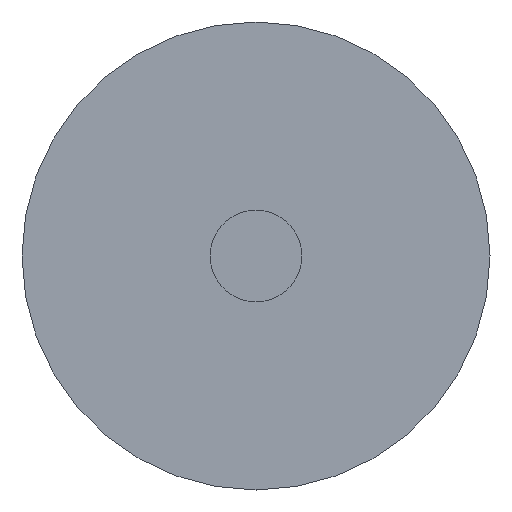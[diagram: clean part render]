
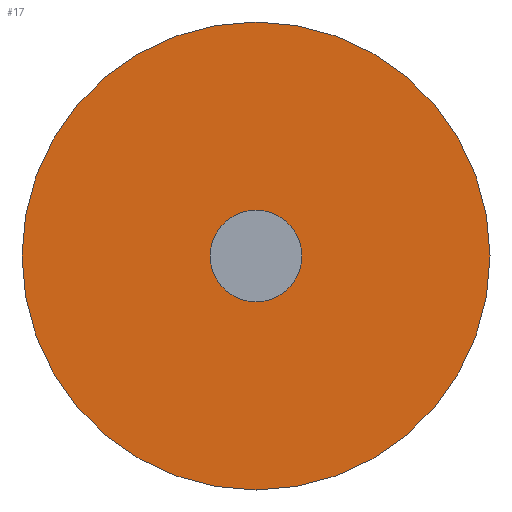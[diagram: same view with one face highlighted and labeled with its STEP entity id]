
A CAD part, front view. The second image highlights one B-rep face of the part: STEP entity #17.
In plain terms, the highlighted planar face has unit normal (0, -1, 0).
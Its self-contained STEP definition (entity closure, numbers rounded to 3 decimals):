
#11 = CARTESIAN_POINT ( 'NONE',  ( 0., -6.5, 0. ) ) ;
#17 = ADVANCED_FACE ( 'NONE', ( #417, #468 ), #525, .F. ) ;
#30 = DIRECTION ( 'NONE',  ( -1., 0., 0. ) ) ;
#90 = CIRCLE ( 'NONE', #470, 1.75 ) ;
#91 = ORIENTED_EDGE ( 'NONE', *, *, #504, .T. ) ;
#93 = DIRECTION ( 'NONE',  ( -1., 0., 0. ) ) ;
#97 = CARTESIAN_POINT ( 'NONE',  ( 12.75, -6.5, 0. ) ) ;
#106 = EDGE_LOOP ( 'NONE', ( #91, #310 ) ) ;
#113 = ORIENTED_EDGE ( 'NONE', *, *, #516, .F. ) ;
#115 = DIRECTION ( 'NONE',  ( -1., 0., 0. ) ) ;
#153 = VERTEX_POINT ( 'NONE', #260 ) ;
#185 = CIRCLE ( 'NONE', #245, 12.75 ) ;
#197 = DIRECTION ( 'NONE',  ( 0., 1., 0. ) ) ;
#221 = DIRECTION ( 'NONE',  ( 0., 1., 0. ) ) ;
#223 = VERTEX_POINT ( 'NONE', #97 ) ;
#245 = AXIS2_PLACEMENT_3D ( 'NONE', #373, #513, #30 ) ;
#260 = CARTESIAN_POINT ( 'NONE',  ( 1.75, -6.5, 0. ) ) ;
#261 = CARTESIAN_POINT ( 'NONE',  ( 0., -6.5, 0. ) ) ;
#267 = CIRCLE ( 'NONE', #311, 12.75 ) ;
#298 = AXIS2_PLACEMENT_3D ( 'NONE', #261, #313, #93 ) ;
#308 = DIRECTION ( 'NONE',  ( -1., 0., 0. ) ) ;
#310 = ORIENTED_EDGE ( 'NONE', *, *, #387, .T. ) ;
#311 = AXIS2_PLACEMENT_3D ( 'NONE', #11, #221, #308 ) ;
#312 = CARTESIAN_POINT ( 'NONE',  ( -1.75, -6.5, 0. ) ) ;
#313 = DIRECTION ( 'NONE',  ( 0., 1., 0. ) ) ;
#322 = CARTESIAN_POINT ( 'NONE',  ( -12.75, -6.5, 0. ) ) ;
#346 = EDGE_CURVE ( 'NONE', #487, #223, #267, .T. ) ;
#370 = VERTEX_POINT ( 'NONE', #312 ) ;
#373 = CARTESIAN_POINT ( 'NONE',  ( 0., -6.5, 0. ) ) ;
#387 = EDGE_CURVE ( 'NONE', #153, #370, #528, .T. ) ;
#417 = FACE_OUTER_BOUND ( 'NONE', #453, .T. ) ;
#432 = DIRECTION ( 'NONE',  ( -1., 0., 0. ) ) ;
#443 = AXIS2_PLACEMENT_3D ( 'NONE', #529, #570, #432 ) ;
#453 = EDGE_LOOP ( 'NONE', ( #563, #113 ) ) ;
#468 = FACE_BOUND ( 'NONE', #106, .T. ) ;
#470 = AXIS2_PLACEMENT_3D ( 'NONE', #472, #197, #115 ) ;
#472 = CARTESIAN_POINT ( 'NONE',  ( 0., -6.5, 0. ) ) ;
#487 = VERTEX_POINT ( 'NONE', #322 ) ;
#504 = EDGE_CURVE ( 'NONE', #370, #153, #90, .T. ) ;
#513 = DIRECTION ( 'NONE',  ( 0., 1., 0. ) ) ;
#516 = EDGE_CURVE ( 'NONE', #223, #487, #185, .T. ) ;
#525 = PLANE ( 'NONE',  #443 ) ;
#528 = CIRCLE ( 'NONE', #298, 1.75 ) ;
#529 = CARTESIAN_POINT ( 'NONE',  ( 1.75, -6.5, 0. ) ) ;
#563 = ORIENTED_EDGE ( 'NONE', *, *, #346, .F. ) ;
#570 = DIRECTION ( 'NONE',  ( 0., 1., 0. ) ) ;
